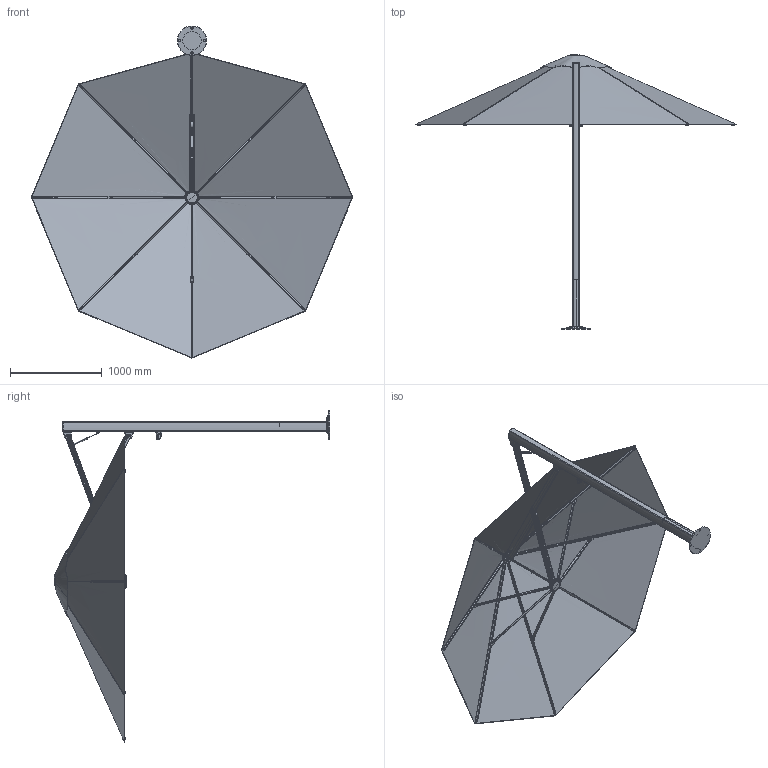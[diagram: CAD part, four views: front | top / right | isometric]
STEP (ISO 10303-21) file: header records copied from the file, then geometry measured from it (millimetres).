
FILE_DESCRIPTION (( 'STEP AP203' ), '1' );
FILE_NAME ('Serenity 3.5M Octagonal.STEP', '2020-06-18T05:15:52', ( '' ), ( '' ), 'SwSTEP 2.0', 'SolidWorks 2017', '' );
FILE_SCHEMA (( 'CONFIG_CONTROL_DESIGN' ));
Length unit declared in the file: millimetre
Products named in the file (47): SMP_UM - 110098; SMP_UM - 110093; SMP_UM - 110114; flat washer regular_am_B18.22M - Plain washer, 6 mm, regular; SMP_UM - 110173; socket button head cap screw_am_B18.3.4M - 5 x 0.8 x 16 SBHCS --N; SMP_UM - 110110; SMP_UM - 110095; SMP_UM - 110131; SMP_UM - 110194b; SMP_UM - 110079; socket button head cap screw_am_B18.3.4M - 5 x 0.8 x 20 SBHCS --N; SMP_UM - 110196; SMP_UM - 110078_All Holes; SMP_UM - 110066; SMP_UM - 110168; SMP_UM - 110194; SMP_UM - 110088; SMP_UM - 110068_revised; SMP_UM - 110222; SMP_UM - 210019; SMP_UM - 110064; SMP_UM - 110208; SMP_UM - 110089; SMP_UM - 010262 _ 3.5 OCT; SMP_UM - 110067_Default<As Machined>; SMP_UM - 110102_Stretched; SMP_UM - 110085; SMP_UM - 110096_PD; SMP_UM - 110092; SMP_UM - 110175; SMP_UM - 110070; Serenity 3.5M Octagonal; SMP_UM - 110094; SMP_UM - 110210_Operational Position; SMP_UM - 110069; SMP_UM - 110197; SMP_UM - 110063; flat washer regular_am_B18.22M - Plain washer, 5 mm, regular; SMP_UM - 110075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
Assembly tree (65 placements, depth 3):
  Serenity 3.5M Octagonal
    SMP_UM - 110210_Operational Position
      SMP_UM - 110078_All Holes
      SMP_UM - 110076_PD
    SMP_UM - 110068_revised
    SMP_UM - 110114
      SMP_UM - 110067_Default<As Machined>
    SMP_UM - 110173
      SMP_UM - 110193
      SMP_UM - 110080  x2
    SMP_UM - 110174
      SMP_UM - 110194b
      SMP_UM - 110194
      SMP_UM - 110084
      socket button head cap screw_am_B18.3.4M - 5 x 0.8 x 16 SBHCS --N
      flat washer regular_am_B18.22M - Plain washer, 5 mm, regular
      SMP_UM - 110085  x2
    SMP_UM - 110064
      SMP_UM - 110092
    SMP_UM - 110063
      SMP_UM - 110092
      SMP_UM - 110093
      SMP_UM - 110094
      SMP_UM - 110110
    SMP_UM - 110208  x7
      SMP_UM - 110196
      SMP_UM - 110089
      SMP_UM - 210019
      SMP_UM - 110088
      flat washer regular_am_B18.22M - Plain washer, 6 mm, regular
      socket button head cap screw_am_B18.3.4M - 5 x 0.8 x 20 SBHCS --N
      SMP_UM - 110131
    SMP_UM - 110175  x7
      SMP_UM - 110197
      SMP_UM - 110089
    SMP_UM - 110066
      SMP_UM - 110098
      SMP_UM - 110075
      SMP_UM - 110096_PD
      SMP_UM - 110102_Stretched
    SMP_UM - 110095  x2
    SMP_UM - 210044 - Gastec Spring_Extended
    SMP_UM - 110168
      SMP_UM - 110075
      SMP_UM - 110079
    SMP_UM - 110065
      SMP_UM - 110070
      SMP_UM - 110069
    SMP_UM - 010262 _ 3.5 OCT
    SMP_UM - 110222
Bounding box: 3507.77 x 3004.95 x 3626.88 mm (x, y, z)
Volume: 40239061.1 mm3; surface area: 24230704.5 mm2
Topology: 101 solids, 106 shells, 1835 faces, 4458 edges, 2841 vertices
Faces by surface type: plane 614, cylinder 590, cone 278, bspline 255, torus 78, sphere 20
Entity records: 85892 total; most frequent: CARTESIAN_POINT 60541, ORIENTED_EDGE 4414, DIRECTION 3819, EDGE_CURVE 2208, AXIS2_PLACEMENT_3D 1524, VERTEX_POINT 1394, EDGE_LOOP 951, ADVANCED_FACE 908
